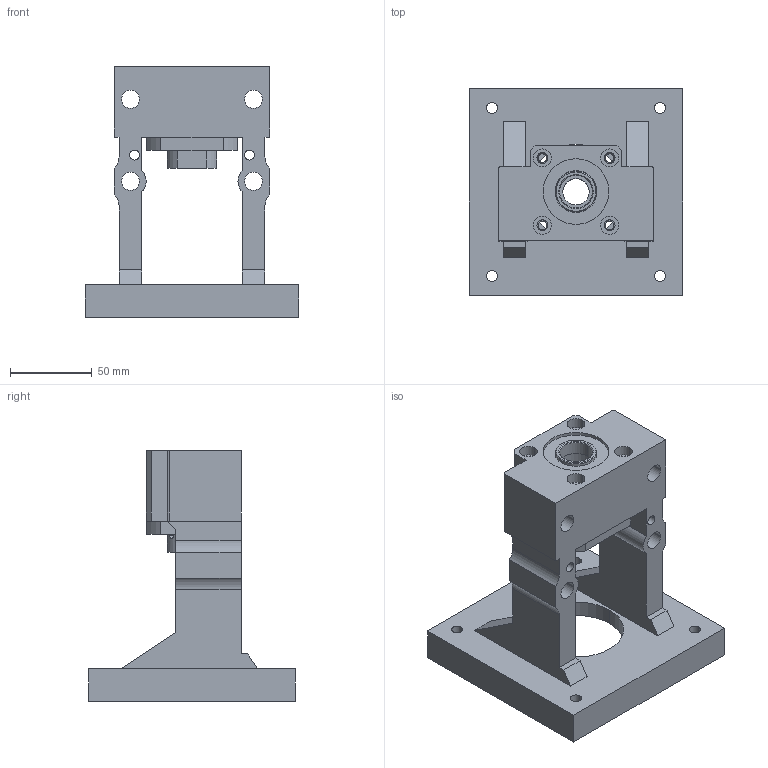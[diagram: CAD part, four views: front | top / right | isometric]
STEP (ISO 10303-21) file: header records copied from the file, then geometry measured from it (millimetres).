
FILE_DESCRIPTION((''),'2;1');
FILE_NAME('M130G-AK20-C_ASM','2018-05-17T',('ASUS'),(''),'PRO/ENGINEER BY PARAMETRIC TECHNOLOGY CORPORATION, 2010280','PRO/ENGINEER BY PARAMETRIC TECHNOLOGY CORPORATION, 2010280','');
FILE_SCHEMA(('CONFIG_CONTROL_DESIGN'));
Length unit declared in the file: millimetre
Products named in the file (5): 1; 3; 2; 4; M130G-AK20-C_ASM
Assembly tree (5 placements, depth 2):
  M130G-AK20-C_ASM
    1
    3  x2
    2
    4
Bounding box: 130 x 126 x 153 mm (x, y, z)
Volume: 512223.8 mm3; surface area: 114517.5 mm2
Topology: 5 solids, 5 shells, 186 faces, 486 edges, 324 vertices
Faces by surface type: cylinder 100, plane 70, cone 16
Entity records: 5811 total; most frequent: CARTESIAN_POINT 1076, DIRECTION 1026, ORIENTED_EDGE 916, EDGE_CURVE 458, AXIS2_PLACEMENT_3D 394, VERTEX_POINT 308, VECTOR 238, LINE 238
